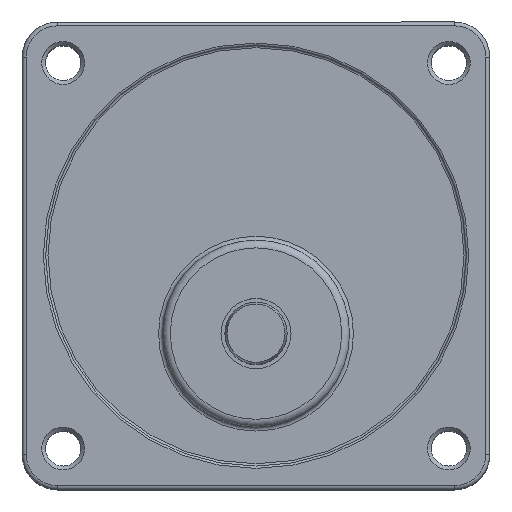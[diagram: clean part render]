
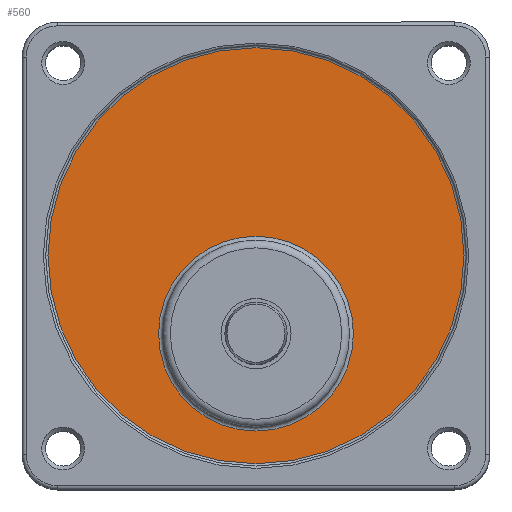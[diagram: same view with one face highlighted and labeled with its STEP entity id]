
A CAD part, top view. The second image highlights one B-rep face of the part: STEP entity #560.
In plain terms, the highlighted planar face has unit normal (0, 0, 1).
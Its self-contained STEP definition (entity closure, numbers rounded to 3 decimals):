
#509=CARTESIAN_POINT('',(42.5,20.0,39.2));
#510=VERTEX_POINT('',#509);
#511=CARTESIAN_POINT('',(30.,20.0,39.2));
#512=DIRECTION('',(0.0,0.0,1.0));
#513=DIRECTION('',(-1.0,0.0,0.0));
#514=AXIS2_PLACEMENT_3D('',#511,#512,#513);
#515=CIRCLE('',#514,12.5);
#516=EDGE_CURVE('',#510,#510,#515,.T.);
#541=CARTESIAN_POINT('',(30.,30.0,39.2));
#542=DIRECTION('',(0.0,0.0,-1.0));
#543=DIRECTION('',(-1.0,0.0,0.0));
#544=AXIS2_PLACEMENT_3D('',#541,#542,#543);
#545=PLANE('',#544);
#546=CARTESIAN_POINT('',(56.699,30.0,39.2));
#547=VERTEX_POINT('',#546);
#548=CARTESIAN_POINT('',(30.,30.0,39.2));
#549=DIRECTION('',(0.0,0.0,-1.0));
#550=DIRECTION('',(-1.0,0.0,0.0));
#551=AXIS2_PLACEMENT_3D('',#548,#549,#550);
#552=CIRCLE('',#551,26.699);
#553=EDGE_CURVE('',#547,#547,#552,.T.);
#554=ORIENTED_EDGE('',*,*,#553,.F.);
#555=EDGE_LOOP('',(#554));
#556=FACE_OUTER_BOUND('',#555,.T.);
#557=ORIENTED_EDGE('',*,*,#516,.F.);
#558=EDGE_LOOP('',(#557));
#559=FACE_BOUND('',#558,.T.);
#560=ADVANCED_FACE('',(#556,#559),#545,.F.);
